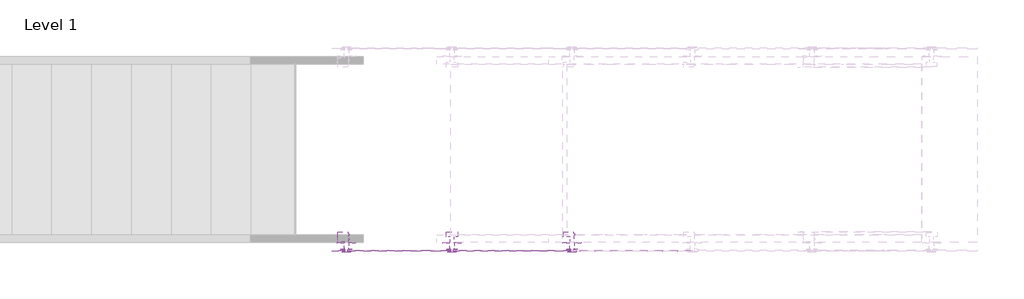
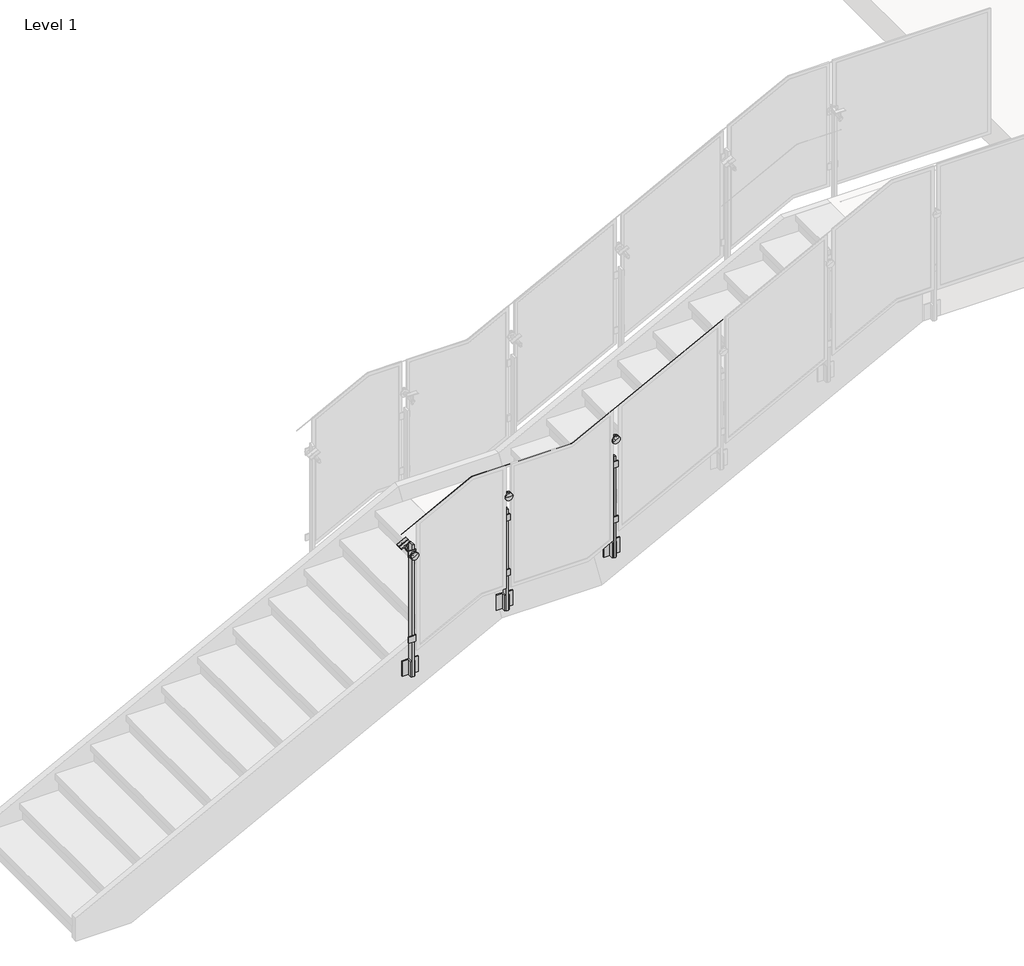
# One storey, part 17 of 28: 1 railing.
"""IFC4 building model written with IfcOpenShell, lengths in millimetres."""

from ifc_helpers import new_model, si_unit, point, frame, frame_2d, origin, place, context, project, spatial, polyline, circle_curve, ellipse_curve, trimmed, segment, composite_curve, outline, extrude, element, save
from ifc_brep_helpers import plane_surface, cylinder_surface, advanced_brep

model = new_model("IFC4")

# Units and contexts
model_context = context("Model", 3, world=origin())
ifc_project = project(units=[si_unit("LENGTHUNIT", "METRE", prefix="MILLI")], contexts=[model_context])

# Site, building, storey
site = spatial("IfcSite", under=ifc_project)
building = spatial("IfcBuilding", under=site)
storey = spatial("IfcBuildingStorey", under=building, Name="Level 1", Elevation=0.0)

# Railing
placement = place(None, origin())
element("IfcRailing", 1, ObjectType="Metal-Panel-VIVA-STRUC-Fascia-Stairs-Landing", at=placement, inside=storey, context=model_context, shape_type="SolidModel", body=[
    advanced_brep(
    [(-16484.3313244, -3972.849746, 2533.6638324), (-16484.3313244, -3971.849746, 2533.6638324), (-15931.7592018, -3972.849746, 2820.7142857), (-15931.7592018, -3971.849746, 2820.7142857), (-15144.3592018, -3972.849746, 2820.7142857), (-15144.3592018, -3971.849746, 2820.7142857), (-13959.1395244, -3972.849746, 3436.4128194), (-13959.1395244, -3971.849746, 3436.4128194)],
    [
        (0, 1, ellipse_curve(frame((-16484.3313244, -3972.349746, 2533.6638324), z_axis=(-1.0, 0.0, 0.0), x_axis=(0.0, 0.0, -1.0)), 0.5634403, 0.5)),
        (1, 0, ellipse_curve(frame((-16484.3313244, -3972.349746, 2533.6638324), z_axis=(-1.0, 0.0, 0.0), x_axis=(0.0, 0.0, -1.0)), 0.5634403, 0.5)),
        (0, 2),
        (2, 3, ellipse_curve(frame((-15931.7592018, -3972.349746, 2820.7142857), z_axis=(-0.9714436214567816, 0.0, -0.23727050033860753), x_axis=(0.23727050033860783, 0.0, -0.9714436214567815)), 0.5146979, 0.5)),
        (3, 1),
        (3, 2, ellipse_curve(frame((-15931.7592018, -3972.349746, 2820.7142857), z_axis=(-0.9714436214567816, 0.0, -0.23727050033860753), x_axis=(0.23727050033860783, 0.0, -0.9714436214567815)), 0.5146979, 0.5)),
        (2, 4),
        (4, 5, ellipse_curve(frame((-15144.3592018, -3972.349746, 2820.7142857), z_axis=(-0.9714436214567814, 0.0, -0.23727050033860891), x_axis=(-0.23727050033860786, 0.0, 0.9714436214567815)), 0.5146979, 0.5)),
        (5, 3),
        (5, 4, ellipse_curve(frame((-15144.3592018, -3972.349746, 2820.7142857), z_axis=(-0.9714436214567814, 0.0, -0.23727050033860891), x_axis=(-0.23727050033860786, 0.0, 0.9714436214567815)), 0.5146979, 0.5)),
        (6, 7, ellipse_curve(frame((-13959.1395244, -3972.349746, 3436.4128194), z_axis=(1.0, 0.0, 0.0), x_axis=(0.0, 0.0, -0.9999999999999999)), 0.5634403, 0.5)),
        (7, 6, ellipse_curve(frame((-13959.1395244, -3972.349746, 3436.4128194), z_axis=(1.0, 0.0, 0.0), x_axis=(0.0, 0.0, -0.9999999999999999)), 0.5634403, 0.5)),
        (4, 6),
        (7, 5),
    ],
    [
        plane_surface(frame((-16484.3313244, -3972.349746, 2534.2272727), z_axis=(-1.0, 0.0, 0.0), x_axis=(0.0, 1.0, 0.0))),
        cylinder_surface(frame((-16484.1008295, -3972.349746, 2533.78357), z_axis=(-0.8874054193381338, 0.0, -0.4609898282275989), x_axis=(0.0, 1.0, 0.0)), 0.5),
        cylinder_surface(frame((-15931.8813244, -3972.349746, 2820.7142857), z_axis=(-1.0, 0.0, 0.0), x_axis=(0.0, 1.0, 0.0)), 0.5),
        plane_surface(frame((-13959.1395244, -3972.349746, 3436.9762597), z_axis=(1.0, 0.0, 0.0), x_axis=(0.0, 1.0, 0.0))),
        cylinder_surface(frame((-15144.2508295, -3972.349746, 2820.770583), z_axis=(-0.8874054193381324, 0.0, -0.4609898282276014), x_axis=(0.0, 1.0, 0.0)), 0.5),
    ],
    [
        (0, [[1, 2]]),
        (1, [[-1, 3, 4, 5]]),
        (1, [[-2, -5, 6, -3]]),
        (2, [[-4, 7, 8, 9]]),
        (2, [[-6, -9, 10, -7]]),
        (3, [[11, 12]]),
        (4, [[-8, 13, -12, 14]]),
        (4, [[-10, -14, -11, -13]]),
    ],
),
    extrude(outline(composite_curve([segment(polyline([(-2.99974, -1e-07), (0.0, 0.0)]), True, "CONTINUOUS"), segment(trimmed(circle_curve(frame_2d((19.0451472, 1e-07)), 19.0451471), [point((0.0, 0.0))], [point((23.6280664, -18.4855208))], True, "CARTESIAN"), True, "CONTINUOUS"), segment(polyline([(23.6280664, -18.4855208), (24.3499073, -21.397116)]), True, "CONTINUOUS"), segment(trimmed(circle_curve(frame_2d((19.0451472, 1e-07)), 22.0448871), [point((24.3499073, -21.397116))], [point((-2.99974, -1e-07))], False, "CARTESIAN"), True, "CONTINUOUS")], self_intersect=False)), frame((-14863.3578349, -3873.586146, 2771.6798072), z_axis=(0.8874054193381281, 0.0, 0.4609898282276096), x_axis=(-0.28405456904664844, 0.7876022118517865, 0.5468050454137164)), (0.0, 0.0, 1.0), 79.1184357),
    advanced_brep(
    [(-14788.4729468, -3858.586146, 2713.3400434), (-14788.4729468, -3851.442396, 2713.3400434), (-14788.4729468, -3865.729896, 2713.3400434), (-14824.3321931, -3865.729896, 2782.3690925), (-14824.3321931, -3851.442396, 2782.3690925), (-14824.3321931, -3858.586146, 2782.3690925)],
    [
        (0, 1),
        (1, 2, circle_curve(frame((-14788.4729468, -3858.586146, 2713.3400434), z_axis=(0.4609898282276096, 0.0, -0.8874054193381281), x_axis=(0.0, 1.0, 0.0)), 7.14375)),
        (2, 0),
        (3, 4, circle_curve(frame((-14824.3321931, -3858.586146, 2782.3690925), z_axis=(-0.4609898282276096, 0.0, 0.8874054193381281), x_axis=(0.0, 1.0, 0.0)), 7.14375)),
        (4, 5),
        (5, 3),
        (2, 1, circle_curve(frame((-14788.4729468, -3858.586146, 2713.3400434), z_axis=(0.4609898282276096, 0.0, -0.8874054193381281), x_axis=(0.0, 1.0, 0.0)), 7.14375)),
        (4, 3, circle_curve(frame((-14824.3321931, -3858.586146, 2782.3690925), z_axis=(-0.4609898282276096, 0.0, 0.8874054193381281), x_axis=(0.0, 1.0, 0.0)), 7.14375)),
        (1, 4),
        (3, 2),
    ],
    [
        plane_surface(frame((-14788.4729468, -3858.586146, 2713.3400434), z_axis=(0.4609898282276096, 0.0, -0.8874054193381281), x_axis=(0.0, 1.0, 0.0))),
        plane_surface(frame((-14824.3321931, -3858.586146, 2782.3690925), z_axis=(-0.4609898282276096, 0.0, 0.8874054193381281), x_axis=(0.0, 1.0, 0.0))),
        cylinder_surface(frame((-14671.5187469, -3858.586146, 2488.2032087), z_axis=(0.4609898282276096, 0.0, -0.8874054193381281), x_axis=(0.0, 1.0, 0.0)), 7.14375),
    ],
    [
        (0, [[1, 2, 3]]),
        (1, [[4, 5, 6]]),
        (0, [[-3, 7, -1]]),
        (1, [[8, -6, -5]]),
        (2, [[-2, 9, -4, 10]]),
        (2, [[-7, -10, -8, -9]]),
    ],
),
    advanced_brep(
    [(-14774.1037585, -3977.331146, 2751.1092161), (-14827.6364904, -3977.331146, 2723.3000047), (-14806.5051488, -3977.331146, 2734.277325), (-14795.2351, -3977.331146, 2740.1318958), (-14774.1037585, -3985.268646, 2751.1092161), (-14827.6364904, -3985.268646, 2723.3000047), (-14774.1037585, -3959.868646, 2751.1092161), (-14827.6364904, -3959.868646, 2723.3000047), (-14812.1401733, -3959.868646, 2731.3500396), (-14789.6000756, -3959.868646, 2743.0591812), (-14774.1037585, -3967.806146, 2751.1092161), (-14827.6364904, -3967.806146, 2723.3000047), (-14800.8701244, -3985.268646, 2737.2046104), (-14789.6000756, -3847.8674022, 2743.0591812), (-14812.1401733, -3847.8674022, 2731.3500396), (-14800.8701244, -3847.8674022, 2737.2046104), (-14795.2351, -3967.806146, 2740.1318958), (-14806.5051488, -3967.806146, 2734.277325)],
    [
        (0, 1, circle_curve(frame((-14800.8701244, -3977.331146, 2737.2046104), z_axis=(0.0, 1.0, 0.0), x_axis=(-0.8874054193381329, 0.0, -0.4609898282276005)), 30.1625)),
        (1, 2),
        (2, 3, circle_curve(frame((-14800.8701244, -3977.331146, 2737.2046104), z_axis=(0.0, -1.0, 0.0), x_axis=(-0.8874054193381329, 0.0, -0.4609898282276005)), 6.35)),
        (3, 0),
        (4, 5, circle_curve(frame((-14800.8701244, -3985.268646, 2737.2046104), z_axis=(0.0, 1.0, 0.0), x_axis=(-0.8874054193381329, 0.0, -0.4609898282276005)), 30.1625)),
        (5, 1),
        (0, 4),
        (6, 7, circle_curve(frame((-14800.8701244, -3959.868646, 2737.2046104), z_axis=(0.0, 1.0, 0.0), x_axis=(-0.8874054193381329, 0.0, -0.4609898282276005)), 30.1625)),
        (7, 8),
        (8, 9, circle_curve(frame((-14800.8701244, -3959.868646, 2737.2046104), z_axis=(0.0, -1.0, 0.0), x_axis=(-0.8874054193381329, 0.0, -0.4609898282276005)), 12.7)),
        (9, 6),
        (10, 11, circle_curve(frame((-14800.8701244, -3967.806146, 2737.2046104), z_axis=(0.0, 1.0, 0.0), x_axis=(-0.8874054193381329, 0.0, -0.4609898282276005)), 30.1625)),
        (11, 7),
        (6, 10),
        (5, 4, circle_curve(frame((-14800.8701244, -3985.268646, 2737.2046104), z_axis=(0.0, 1.0, 0.0), x_axis=(-0.8874054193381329, 0.0, -0.4609898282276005)), 30.1625)),
        (0, 1, circle_curve(frame((-14800.8701244, -3977.331146, 2737.2046104), z_axis=(0.0, -1.0, 0.0), x_axis=(-0.8874054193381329, 0.0, -0.4609898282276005)), 30.1625)),
        (12, 5),
        (4, 12),
        (13, 14, circle_curve(frame((-14800.8701244, -3847.8674022, 2737.2046104), z_axis=(0.0, 1.0, 0.0), x_axis=(-0.8874054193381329, 0.0, -0.4609898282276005)), 12.7)),
        (14, 15),
        (15, 13),
        (14, 13, circle_curve(frame((-14800.8701244, -3847.8674022, 2737.2046104), z_axis=(0.0, 1.0, 0.0), x_axis=(-0.8874054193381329, 0.0, -0.4609898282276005)), 12.7)),
        (8, 14),
        (13, 9),
        (8, 9, circle_curve(frame((-14800.8701244, -3959.868646, 2737.2046104), z_axis=(0.0, 1.0, 0.0), x_axis=(-0.8874054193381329, 0.0, -0.4609898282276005)), 12.7)),
        (7, 6, circle_curve(frame((-14800.8701244, -3959.868646, 2737.2046104), z_axis=(0.0, 1.0, 0.0), x_axis=(-0.8874054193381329, 0.0, -0.4609898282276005)), 30.1625)),
        (11, 10, circle_curve(frame((-14800.8701244, -3967.806146, 2737.2046104), z_axis=(0.0, 1.0, 0.0), x_axis=(-0.8874054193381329, 0.0, -0.4609898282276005)), 30.1625)),
        (16, 17, circle_curve(frame((-14800.8701244, -3967.806146, 2737.2046104), z_axis=(0.0, 1.0, 0.0), x_axis=(-0.8874054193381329, 0.0, -0.4609898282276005)), 6.35)),
        (17, 11),
        (10, 16),
        (17, 16, circle_curve(frame((-14800.8701244, -3967.806146, 2737.2046104), z_axis=(0.0, 1.0, 0.0), x_axis=(-0.8874054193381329, 0.0, -0.4609898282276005)), 6.35)),
        (2, 17),
        (16, 3),
        (2, 3, circle_curve(frame((-14800.8701244, -3977.331146, 2737.2046104), z_axis=(0.0, 1.0, 0.0), x_axis=(-0.8874054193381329, 0.0, -0.4609898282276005)), 6.35)),
    ],
    [
        plane_surface(frame((-14800.8701244, -3977.331146, 2737.2046104), z_axis=(0.0, 1.0, 0.0), x_axis=(-0.8874054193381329, 0.0, -0.4609898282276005))),
        cylinder_surface(frame((-14800.8701244, -5491.806146, 2737.2046104), z_axis=(0.0, -1.0, 0.0), x_axis=(-0.8874054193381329, 0.0, -0.4609898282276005)), 30.1625),
        plane_surface(frame((-14800.8701244, -3959.868646, 2737.2046104), z_axis=(0.0, 1.0, 0.0), x_axis=(-0.8874054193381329, 0.0, -0.4609898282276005))),
        plane_surface(frame((-14800.8701244, -3985.268646, 2737.2046104), z_axis=(0.0, -1.0, 0.0), x_axis=(-0.8874054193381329, 0.0, -0.4609898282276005))),
        plane_surface(frame((-14800.8701244, -3847.8674022, 2737.2046104), z_axis=(0.0, 1.0, 0.0), x_axis=(-0.8874054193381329, 0.0, -0.4609898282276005))),
        cylinder_surface(frame((-14800.8701244, -5491.806146, 2737.2046104), z_axis=(0.0, -1.0, 0.0), x_axis=(-0.8874054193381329, 0.0, -0.4609898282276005)), 12.7),
        plane_surface(frame((-14800.8701244, -3967.806146, 2737.2046104), z_axis=(0.0, -1.0, 0.0), x_axis=(-0.8874054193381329, 0.0, -0.4609898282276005))),
        cylinder_surface(frame((-14800.8701244, -5491.806146, 2737.2046104), z_axis=(0.0, -1.0, 0.0), x_axis=(-0.8874054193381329, 0.0, -0.4609898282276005)), 6.35),
    ],
    [
        (0, [[1, 2, 3, 4]]),
        (1, [[5, 6, -1, 7]]),
        (2, [[8, 9, 10, 11]]),
        (1, [[12, 13, -8, 14]]),
        (1, [[15, -7, 16, -6]]),
        (3, [[17, -5, 18]]),
        (3, [[-18, -15, -17]]),
        (4, [[19, 20, 21]]),
        (4, [[22, -21, -20]]),
        (5, [[-10, 23, -19, 24]]),
        (5, [[25, -24, -22, -23]]),
        (2, [[26, -11, -25, -9]]),
        (1, [[27, -14, -26, -13]]),
        (6, [[28, 29, -12, 30]]),
        (6, [[31, -30, -27, -29]]),
        (7, [[-3, 32, -28, 33]]),
        (7, [[34, -33, -31, -32]]),
        (0, [[-16, -4, -34, -2]]),
    ],
),
    extrude(outline(polyline([(-14838.9708437, -3960.694146), (-14762.7694052, -3960.694146), (-14762.7694052, -3967.806146), (-14838.9708437, -3967.806146), (-14838.9708437, -3960.694146)])), frame((0.0, 0.0, 2495.8221429), z_axis=(0.0, 0.0, 1.0), x_axis=(1.0, 0.0, 0.0)), (0.0, 0.0, 1.0), 50.8),
    extrude(outline(polyline([(-14838.9708437, -3960.694146), (-14762.7694052, -3960.694146), (-14762.7694052, -3967.806146), (-14838.9708437, -3967.806146), (-14838.9708437, -3960.694146)])), frame((0.0, 0.0, 2038.6221429), z_axis=(0.0, 0.0, 1.0), x_axis=(1.0, 0.0, 0.0)), (0.0, 0.0, 1.0), 50.8),
    extrude(outline(polyline([(-14792.9347161, -3954.852146), (-14792.9347161, -3912.942146), (-14737.3741945, -3912.942146), (-14737.3741945, -3921.070146), (-14784.9337161, -3921.070146), (-14784.9337161, -3954.852146), (-14792.9347161, -3954.852146)])), frame((0.0, 0.0, 1743.2709429), z_axis=(0.0, 0.0, 1.0), x_axis=(1.0, 0.0, 0.0)), (0.0, 0.0, 1.0), 127.0),
    extrude(outline(polyline([(-14808.8097161, -3954.852146), (-14816.8107161, -3954.852146), (-14816.8107161, -3921.070146), (-14864.3702376, -3921.070146), (-14864.3702376, -3912.942146), (-14808.8097161, -3912.942146), (-14808.8097161, -3954.852146)])), frame((0.0, 0.0, 1743.2709429), z_axis=(0.0, 0.0, 1.0), x_axis=(1.0, 0.0, 0.0)), (0.0, 0.0, 1.0), 127.0),
    extrude(outline(polyline([(-14808.8097161, -3916.244146), (-14792.9305328, -3916.244146), (-14792.9305328, -3960.694146), (-14808.8097161, -3960.694146), (-14808.8097161, -3916.244146)])), frame((0.0, 0.0, 1743.2709429), z_axis=(0.0, 0.0, 1.0), x_axis=(1.0, 0.0, 0.0)), (0.0, 0.0, 1.0), 842.9752),
    extrude(outline(composite_curve([segment(polyline([(-3875.9487478, 2616.2565693), (-3873.586146, 2618.1049611)]), True, "CONTINUOUS"), segment(trimmed(circle_curve(frame_2d((-3858.586146, 2629.8402766)), 19.0451471), [point((-3873.586146, 2618.1049611))], [point((-3843.586146, 2618.1049611))], True, "CARTESIAN"), True, "CONTINUOUS"), segment(polyline([(-3843.586146, 2618.1049611), (-3841.2235441, 2616.2565693)]), True, "CONTINUOUS"), segment(trimmed(circle_curve(frame_2d((-3858.586146, 2629.8402766)), 22.0448871), [point((-3841.2235441, 2616.2565693))], [point((-3875.9487478, 2616.2565693))], False, "CARTESIAN"), True, "CONTINUOUS")], self_intersect=False)), frame((-15682.1599423, 0.0, 0.0), z_axis=(1.0, 0.0, 0.0), x_axis=(0.0, 1.0, 0.0)), (0.0, 0.0, 1.0), 79.1184357),
    advanced_brep(
    [(-15642.6007244, -3858.586146, 2531.8127669), (-15642.6007244, -3851.442396, 2531.8127669), (-15642.6007244, -3865.729896, 2531.8127669), (-15642.6007244, -3865.729896, 2609.6002669), (-15642.6007244, -3851.442396, 2609.6002669), (-15642.6007244, -3858.586146, 2609.6002669)],
    [
        (0, 1),
        (1, 2, circle_curve(frame((-15642.6007244, -3858.586146, 2531.8127669), z_axis=(0.0, 0.0, -1.0), x_axis=(0.0, 1.0, 0.0)), 7.14375)),
        (2, 0),
        (3, 4, circle_curve(frame((-15642.6007244, -3858.586146, 2609.6002669), z_axis=(0.0, 0.0, 1.0), x_axis=(0.0, 1.0, 0.0)), 7.14375)),
        (4, 5),
        (5, 3),
        (2, 1, circle_curve(frame((-15642.6007244, -3858.586146, 2531.8127669), z_axis=(0.0, 0.0, -1.0), x_axis=(0.0, 1.0, 0.0)), 7.14375)),
        (4, 3, circle_curve(frame((-15642.6007244, -3858.586146, 2609.6002669), z_axis=(0.0, 0.0, 1.0), x_axis=(0.0, 1.0, 0.0)), 7.14375)),
        (1, 4),
        (3, 2),
    ],
    [
        plane_surface(frame((-15642.6007244, -3858.586146, 2531.8127669), z_axis=(0.0, 0.0, -1.0), x_axis=(0.0, 1.0, 0.0))),
        plane_surface(frame((-15642.6007244, -3858.586146, 2609.6002669), z_axis=(0.0, 0.0, 1.0), x_axis=(0.0, 1.0, 0.0))),
        cylinder_surface(frame((-15642.6007244, -3858.586146, 2278.1104231), z_axis=(0.0, 0.0, -1.0), x_axis=(0.0, 1.0, 0.0)), 7.14375),
    ],
    [
        (0, [[1, 2, 3]]),
        (1, [[4, 5, 6]]),
        (0, [[-3, 7, -1]]),
        (1, [[8, -6, -5]]),
        (2, [[-2, 9, -4, 10]]),
        (2, [[-7, -10, -8, -9]]),
    ],
),
    advanced_brep(
    [(-15612.4382244, -3977.331146, 2558.7052857), (-15672.7632244, -3977.331146, 2558.7052857), (-15648.9507244, -3977.331146, 2558.7052857), (-15636.2507244, -3977.331146, 2558.7052857), (-15612.4382244, -3985.268646, 2558.7052857), (-15672.7632244, -3985.268646, 2558.7052857), (-15612.4382244, -3959.868646, 2558.7052857), (-15672.7632244, -3959.868646, 2558.7052857), (-15655.3007244, -3959.868646, 2558.7052857), (-15629.9007244, -3959.868646, 2558.7052857), (-15612.4382244, -3967.806146, 2558.7052857), (-15672.7632244, -3967.806146, 2558.7052857), (-15642.6007244, -3985.268646, 2558.7052857), (-15629.9007244, -3847.8674022, 2558.7052857), (-15655.3007244, -3847.8674022, 2558.7052857), (-15642.6007244, -3847.8674022, 2558.7052857), (-15636.2507244, -3967.806146, 2558.7052857), (-15648.9507244, -3967.806146, 2558.7052857)],
    [
        (0, 1, circle_curve(frame((-15642.6007244, -3977.331146, 2558.7052857), z_axis=(0.0, 1.0, 0.0), x_axis=(-1.0, 0.0, 0.0)), 30.1625)),
        (1, 2),
        (2, 3, circle_curve(frame((-15642.6007244, -3977.331146, 2558.7052857), z_axis=(0.0, -1.0, 0.0), x_axis=(-1.0, 0.0, 0.0)), 6.35)),
        (3, 0),
        (4, 5, circle_curve(frame((-15642.6007244, -3985.268646, 2558.7052857), z_axis=(0.0, 1.0, 0.0), x_axis=(-1.0, 0.0, 0.0)), 30.1625)),
        (5, 1),
        (0, 4),
        (6, 7, circle_curve(frame((-15642.6007244, -3959.868646, 2558.7052857), z_axis=(0.0, 1.0, 0.0), x_axis=(-1.0, 0.0, 0.0)), 30.1625)),
        (7, 8),
        (8, 9, circle_curve(frame((-15642.6007244, -3959.868646, 2558.7052857), z_axis=(0.0, -1.0, 0.0), x_axis=(-1.0, 0.0, 0.0)), 12.7)),
        (9, 6),
        (10, 11, circle_curve(frame((-15642.6007244, -3967.806146, 2558.7052857), z_axis=(0.0, 1.0, 0.0), x_axis=(-1.0, 0.0, 0.0)), 30.1625)),
        (11, 7),
        (6, 10),
        (5, 4, circle_curve(frame((-15642.6007244, -3985.268646, 2558.7052857), z_axis=(0.0, 1.0, 0.0), x_axis=(-1.0, 0.0, 0.0)), 30.1625)),
        (0, 1, circle_curve(frame((-15642.6007244, -3977.331146, 2558.7052857), z_axis=(0.0, -1.0, 0.0), x_axis=(-1.0, 0.0, 0.0)), 30.1625)),
        (12, 5),
        (4, 12),
        (13, 14, circle_curve(frame((-15642.6007244, -3847.8674022, 2558.7052857), z_axis=(0.0, 1.0, 0.0), x_axis=(-1.0, 0.0, 0.0)), 12.7)),
        (14, 15),
        (15, 13),
        (14, 13, circle_curve(frame((-15642.6007244, -3847.8674022, 2558.7052857), z_axis=(0.0, 1.0, 0.0), x_axis=(-1.0, 0.0, 0.0)), 12.7)),
        (8, 14),
        (13, 9),
        (8, 9, circle_curve(frame((-15642.6007244, -3959.868646, 2558.7052857), z_axis=(0.0, 1.0, 0.0), x_axis=(-1.0, 0.0, 0.0)), 12.7)),
        (7, 6, circle_curve(frame((-15642.6007244, -3959.868646, 2558.7052857), z_axis=(0.0, 1.0, 0.0), x_axis=(-1.0, 0.0, 0.0)), 30.1625)),
        (11, 10, circle_curve(frame((-15642.6007244, -3967.806146, 2558.7052857), z_axis=(0.0, 1.0, 0.0), x_axis=(-1.0, 0.0, 0.0)), 30.1625)),
        (16, 17, circle_curve(frame((-15642.6007244, -3967.806146, 2558.7052857), z_axis=(0.0, 1.0, 0.0), x_axis=(-1.0, 0.0, 0.0)), 6.35)),
        (17, 11),
        (10, 16),
        (17, 16, circle_curve(frame((-15642.6007244, -3967.806146, 2558.7052857), z_axis=(0.0, 1.0, 0.0), x_axis=(-1.0, 0.0, 0.0)), 6.35)),
        (2, 17),
        (16, 3),
        (2, 3, circle_curve(frame((-15642.6007244, -3977.331146, 2558.7052857), z_axis=(0.0, 1.0, 0.0), x_axis=(-1.0, 0.0, 0.0)), 6.35)),
    ],
    [
        plane_surface(frame((-15642.6007244, -3977.331146, 2558.7052857), z_axis=(0.0, 1.0, 0.0), x_axis=(-1.0, 0.0, 0.0))),
        cylinder_surface(frame((-15642.6007244, -5491.806146, 2558.7052857), z_axis=(0.0, -1.0, 0.0), x_axis=(-1.0, 0.0, 0.0)), 30.1625),
        plane_surface(frame((-15642.6007244, -3959.868646, 2558.7052857), z_axis=(0.0, 1.0, 0.0), x_axis=(-1.0, 0.0, 0.0))),
        plane_surface(frame((-15642.6007244, -3985.268646, 2558.7052857), z_axis=(0.0, -1.0, 0.0), x_axis=(-1.0, 0.0, 0.0))),
        plane_surface(frame((-15642.6007244, -3847.8674022, 2558.7052857), z_axis=(0.0, 1.0, 0.0), x_axis=(-1.0, 0.0, 0.0))),
        cylinder_surface(frame((-15642.6007244, -5491.806146, 2558.7052857), z_axis=(0.0, -1.0, 0.0), x_axis=(-1.0, 0.0, 0.0)), 12.7),
        plane_surface(frame((-15642.6007244, -3967.806146, 2558.7052857), z_axis=(0.0, -1.0, 0.0), x_axis=(-1.0, 0.0, 0.0))),
        cylinder_surface(frame((-15642.6007244, -5491.806146, 2558.7052857), z_axis=(0.0, -1.0, 0.0), x_axis=(-1.0, 0.0, 0.0)), 6.35),
    ],
    [
        (0, [[1, 2, 3, 4]]),
        (1, [[5, 6, -1, 7]]),
        (2, [[8, 9, 10, 11]]),
        (1, [[12, 13, -8, 14]]),
        (1, [[15, -7, 16, -6]]),
        (3, [[17, -5, 18]]),
        (3, [[-18, -15, -17]]),
        (4, [[19, 20, 21]]),
        (4, [[22, -21, -20]]),
        (5, [[-10, 23, -19, 24]]),
        (5, [[25, -24, -22, -23]]),
        (2, [[26, -11, -25, -9]]),
        (1, [[27, -14, -26, -13]]),
        (6, [[28, 29, -12, 30]]),
        (6, [[31, -30, -27, -29]]),
        (7, [[-3, 32, -28, 33]]),
        (7, [[34, -33, -31, -32]]),
        (0, [[-16, -4, -34, -2]]),
    ],
),
    extrude(outline(polyline([(-15680.7014437, -3960.694146), (-15604.5000052, -3960.694146), (-15604.5000052, -3967.806146), (-15680.7014437, -3967.806146), (-15680.7014437, -3960.694146)])), frame((0.0, 0.0, 2350.6792857), z_axis=(0.0, 0.0, 1.0), x_axis=(1.0, 0.0, 0.0)), (0.0, 0.0, 1.0), 50.8),
    extrude(outline(polyline([(-15680.7014437, -3960.694146), (-15604.5000052, -3960.694146), (-15604.5000052, -3967.806146), (-15680.7014437, -3967.806146), (-15680.7014437, -3960.694146)])), frame((0.0, 0.0, 1893.4792857), z_axis=(0.0, 0.0, 1.0), x_axis=(1.0, 0.0, 0.0)), (0.0, 0.0, 1.0), 50.8),
    extrude(outline(polyline([(-15634.6653161, -3954.852146), (-15634.6653161, -3912.942146), (-15579.1047945, -3912.942146), (-15579.1047945, -3921.070146), (-15626.6643161, -3921.070146), (-15626.6643161, -3954.852146), (-15634.6653161, -3954.852146)])), frame((0.0, 0.0, 1598.1280857), z_axis=(0.0, 0.0, 1.0), x_axis=(1.0, 0.0, 0.0)), (0.0, 0.0, 1.0), 127.0),
    extrude(outline(polyline([(-15650.5403161, -3954.852146), (-15658.5413161, -3954.852146), (-15658.5413161, -3921.070146), (-15706.1008376, -3921.070146), (-15706.1008376, -3912.942146), (-15650.5403161, -3912.942146), (-15650.5403161, -3954.852146)])), frame((0.0, 0.0, 1598.1280857), z_axis=(0.0, 0.0, 1.0), x_axis=(1.0, 0.0, 0.0)), (0.0, 0.0, 1.0), 127.0),
    extrude(outline(polyline([(-15650.5403161, -3916.244146), (-15634.6611328, -3916.244146), (-15634.6611328, -3960.694146), (-15650.5403161, -3960.694146), (-15650.5403161, -3916.244146)])), frame((0.0, 0.0, 1598.1280857), z_axis=(0.0, 0.0, 1.0), x_axis=(1.0, 0.0, 0.0)), (0.0, 0.0, 1.0), 842.9752),
    extrude(outline(composite_curve([segment(polyline([(-2.9997399, 0.0), (0.0, 0.0)]), True, "CONTINUOUS"), segment(trimmed(circle_curve(frame_2d((19.0451472, 1e-07)), 19.0451471), [point((0.0, 0.0))], [point((23.6280664, -18.4855208))], True, "CARTESIAN"), True, "CONTINUOUS"), segment(polyline([(23.6280664, -18.4855208), (24.3499073, -21.3971159)]), True, "CONTINUOUS"), segment(trimmed(circle_curve(frame_2d((19.0451472, 1e-07)), 22.0448871), [point((24.3499073, -21.3971159))], [point((-2.9997399, 0.0))], False, "CARTESIAN"), True, "CONTINUOUS")], self_intersect=False)), frame((-16445.2190349, -3873.586146, 2358.9726903), z_axis=(0.8874054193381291, 0.0, 0.46098982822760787), x_axis=(-0.28405456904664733, 0.7876022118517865, 0.546805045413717)), (0.0, 0.0, 1.0), 79.1184357),
    advanced_brep(
    [(-16370.3341468, -3858.586146, 2300.6329266), (-16370.3341468, -3851.442396, 2300.6329266), (-16370.3341468, -3865.729896, 2300.6329266), (-16406.1933931, -3865.729896, 2369.6619756), (-16406.1933931, -3851.442396, 2369.6619756), (-16406.1933931, -3858.586146, 2369.6619756)],
    [
        (0, 1),
        (1, 2, circle_curve(frame((-16370.3341468, -3858.586146, 2300.6329266), z_axis=(0.4609898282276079, 0.0, -0.8874054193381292), x_axis=(0.0, 1.0, 0.0)), 7.14375)),
        (2, 0),
        (3, 4, circle_curve(frame((-16406.1933931, -3858.586146, 2369.6619756), z_axis=(-0.4609898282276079, 0.0, 0.8874054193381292), x_axis=(0.0, 1.0, 0.0)), 7.14375)),
        (4, 5),
        (5, 3),
        (2, 1, circle_curve(frame((-16370.3341468, -3858.586146, 2300.6329266), z_axis=(0.4609898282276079, 0.0, -0.8874054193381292), x_axis=(0.0, 1.0, 0.0)), 7.14375)),
        (4, 3, circle_curve(frame((-16406.1933931, -3858.586146, 2369.6619756), z_axis=(-0.4609898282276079, 0.0, 0.8874054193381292), x_axis=(0.0, 1.0, 0.0)), 7.14375)),
        (1, 4),
        (3, 2),
    ],
    [
        plane_surface(frame((-16370.3341468, -3858.586146, 2300.6329266), z_axis=(0.46098982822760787, 0.0, -0.8874054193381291), x_axis=(0.0, 1.0, 0.0))),
        plane_surface(frame((-16406.1933931, -3858.586146, 2369.6619756), z_axis=(-0.46098982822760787, 0.0, 0.8874054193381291), x_axis=(0.0, 1.0, 0.0))),
        cylinder_surface(frame((-16253.3799469, -3858.586146, 2075.4960918), z_axis=(0.4609898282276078, 0.0, -0.887405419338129), x_axis=(0.0, 1.0, 0.0)), 7.14375),
    ],
    [
        (0, [[1, 2, 3]]),
        (1, [[4, 5, 6]]),
        (0, [[-3, 7, -1]]),
        (1, [[8, -6, -5]]),
        (2, [[-2, 9, -4, 10]]),
        (2, [[-7, -10, -8, -9]]),
    ],
),
    advanced_brep(
    [(-16355.9649585, -3977.331146, 2338.4020992), (-16409.4976904, -3977.331146, 2310.5928878), (-16388.3663488, -3977.331146, 2321.5702081), (-16377.0963, -3977.331146, 2327.4247789), (-16355.9649585, -3985.268646, 2338.4020992), (-16409.4976904, -3985.268646, 2310.5928878), (-16355.9649585, -3959.868646, 2338.4020992), (-16409.4976904, -3959.868646, 2310.5928878), (-16394.0013733, -3959.868646, 2318.6429227), (-16371.4612756, -3959.868646, 2330.3520643), (-16355.9649585, -3967.806146, 2338.4020992), (-16409.4976904, -3967.806146, 2310.5928878), (-16382.7313244, -3985.268646, 2324.4974935), (-16371.4612756, -3847.8674022, 2330.3520643), (-16394.0013733, -3847.8674022, 2318.6429227), (-16382.7313244, -3847.8674022, 2324.4974935), (-16377.0963, -3967.806146, 2327.4247789), (-16388.3663488, -3967.806146, 2321.5702081)],
    [
        (0, 1, circle_curve(frame((-16382.7313244, -3977.331146, 2324.4974935), z_axis=(0.0, 1.0, 0.0), x_axis=(-0.8874054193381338, 0.0, -0.4609898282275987)), 30.1625)),
        (1, 2),
        (2, 3, circle_curve(frame((-16382.7313244, -3977.331146, 2324.4974935), z_axis=(0.0, -1.0, 0.0), x_axis=(-0.8874054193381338, 0.0, -0.4609898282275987)), 6.35)),
        (3, 0),
        (4, 5, circle_curve(frame((-16382.7313244, -3985.268646, 2324.4974935), z_axis=(0.0, 1.0, 0.0), x_axis=(-0.8874054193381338, 0.0, -0.4609898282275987)), 30.1625)),
        (5, 1),
        (0, 4),
        (6, 7, circle_curve(frame((-16382.7313244, -3959.868646, 2324.4974935), z_axis=(0.0, 1.0, 0.0), x_axis=(-0.8874054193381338, 0.0, -0.4609898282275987)), 30.1625)),
        (7, 8),
        (8, 9, circle_curve(frame((-16382.7313244, -3959.868646, 2324.4974935), z_axis=(0.0, -1.0, 0.0), x_axis=(-0.8874054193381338, 0.0, -0.4609898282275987)), 12.7)),
        (9, 6),
        (10, 11, circle_curve(frame((-16382.7313244, -3967.806146, 2324.4974935), z_axis=(0.0, 1.0, 0.0), x_axis=(-0.8874054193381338, 0.0, -0.4609898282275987)), 30.1625)),
        (11, 7),
        (6, 10),
        (5, 4, circle_curve(frame((-16382.7313244, -3985.268646, 2324.4974935), z_axis=(0.0, 1.0, 0.0), x_axis=(-0.8874054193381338, 0.0, -0.4609898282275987)), 30.1625)),
        (0, 1, circle_curve(frame((-16382.7313244, -3977.331146, 2324.4974935), z_axis=(0.0, -1.0, 0.0), x_axis=(-0.8874054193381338, 0.0, -0.4609898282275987)), 30.1625)),
        (12, 5),
        (4, 12),
        (13, 14, circle_curve(frame((-16382.7313244, -3847.8674022, 2324.4974935), z_axis=(0.0, 1.0, 0.0), x_axis=(-0.8874054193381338, 0.0, -0.4609898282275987)), 12.7)),
        (14, 15),
        (15, 13),
        (14, 13, circle_curve(frame((-16382.7313244, -3847.8674022, 2324.4974935), z_axis=(0.0, 1.0, 0.0), x_axis=(-0.8874054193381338, 0.0, -0.4609898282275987)), 12.7)),
        (8, 14),
        (13, 9),
        (8, 9, circle_curve(frame((-16382.7313244, -3959.868646, 2324.4974935), z_axis=(0.0, 1.0, 0.0), x_axis=(-0.8874054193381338, 0.0, -0.4609898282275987)), 12.7)),
        (7, 6, circle_curve(frame((-16382.7313244, -3959.868646, 2324.4974935), z_axis=(0.0, 1.0, 0.0), x_axis=(-0.8874054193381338, 0.0, -0.4609898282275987)), 30.1625)),
        (11, 10, circle_curve(frame((-16382.7313244, -3967.806146, 2324.4974935), z_axis=(0.0, 1.0, 0.0), x_axis=(-0.8874054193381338, 0.0, -0.4609898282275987)), 30.1625)),
        (16, 17, circle_curve(frame((-16382.7313244, -3967.806146, 2324.4974935), z_axis=(0.0, 1.0, 0.0), x_axis=(-0.8874054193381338, 0.0, -0.4609898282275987)), 6.35)),
        (17, 11),
        (10, 16),
        (17, 16, circle_curve(frame((-16382.7313244, -3967.806146, 2324.4974935), z_axis=(0.0, 1.0, 0.0), x_axis=(-0.8874054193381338, 0.0, -0.4609898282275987)), 6.35)),
        (2, 17),
        (16, 3),
        (2, 3, circle_curve(frame((-16382.7313244, -3977.331146, 2324.4974935), z_axis=(0.0, 1.0, 0.0), x_axis=(-0.8874054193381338, 0.0, -0.4609898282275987)), 6.35)),
    ],
    [
        plane_surface(frame((-16382.7313244, -3977.331146, 2324.4974935), z_axis=(0.0, 1.0, 0.0), x_axis=(-0.8874054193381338, 0.0, -0.4609898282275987))),
        cylinder_surface(frame((-16382.7313244, -5491.806146, 2324.4974935), z_axis=(0.0, -1.0, 0.0), x_axis=(-0.8874054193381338, 0.0, -0.4609898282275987)), 30.1625),
        plane_surface(frame((-16382.7313244, -3959.868646, 2324.4974935), z_axis=(0.0, 1.0, 0.0), x_axis=(-0.8874054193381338, 0.0, -0.4609898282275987))),
        plane_surface(frame((-16382.7313244, -3985.268646, 2324.4974935), z_axis=(0.0, -1.0, 0.0), x_axis=(-0.8874054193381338, 0.0, -0.4609898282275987))),
        plane_surface(frame((-16382.7313244, -3847.8674022, 2324.4974935), z_axis=(0.0, 1.0, 0.0), x_axis=(-0.8874054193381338, 0.0, -0.4609898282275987))),
        cylinder_surface(frame((-16382.7313244, -5491.806146, 2324.4974935), z_axis=(0.0, -1.0, 0.0), x_axis=(-0.8874054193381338, 0.0, -0.4609898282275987)), 12.7),
        plane_surface(frame((-16382.7313244, -3967.806146, 2324.4974935), z_axis=(0.0, -1.0, 0.0), x_axis=(-0.8874054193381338, 0.0, -0.4609898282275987))),
        cylinder_surface(frame((-16382.7313244, -5491.806146, 2324.4974935), z_axis=(0.0, -1.0, 0.0), x_axis=(-0.8874054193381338, 0.0, -0.4609898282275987)), 6.35),
    ],
    [
        (0, [[1, 2, 3, 4]]),
        (1, [[5, 6, -1, 7]]),
        (2, [[8, 9, 10, 11]]),
        (1, [[12, 13, -8, 14]]),
        (1, [[15, -7, 16, -6]]),
        (3, [[17, -5, 18]]),
        (3, [[-18, -15, -17]]),
        (4, [[19, 20, 21]]),
        (4, [[22, -21, -20]]),
        (5, [[-10, 23, -19, 24]]),
        (5, [[25, -24, -22, -23]]),
        (2, [[26, -11, -25, -9]]),
        (1, [[27, -14, -26, -13]]),
        (6, [[28, 29, -12, 30]]),
        (6, [[31, -30, -27, -29]]),
        (7, [[-3, 32, -28, 33]]),
        (7, [[34, -33, -31, -32]]),
        (0, [[-16, -4, -34, -2]]),
    ],
),
    extrude(outline(polyline([(-16420.8320437, -3960.694146), (-16344.6306052, -3960.694146), (-16344.6306052, -3967.806146), (-16420.8320437, -3967.806146), (-16420.8320437, -3960.694146)])), frame((0.0, 0.0, 2314.3935714), z_axis=(0.0, 0.0, 1.0), x_axis=(1.0, 0.0, 0.0)), (0.0, 0.0, 1.0), 50.8),
    extrude(outline(polyline([(-16420.8320437, -3960.694146), (-16344.6306052, -3960.694146), (-16344.6306052, -3967.806146), (-16420.8320437, -3967.806146), (-16420.8320437, -3960.694146)])), frame((0.0, 0.0, 1603.1935714), z_axis=(0.0, 0.0, 1.0), x_axis=(1.0, 0.0, 0.0)), (0.0, 0.0, 1.0), 50.8),
    extrude(outline(composite_curve([segment(polyline([(2.9997399, 0.0), (0.0, 0.0)]), True, "CONTINUOUS"), segment(trimmed(circle_curve(frame_2d((-19.0451472, -1e-07)), 19.0451471), [point((0.0, 0.0))], [point((-23.6280664, 18.4855208))], True, "CARTESIAN"), True, "CONTINUOUS"), segment(polyline([(-23.6280664, 18.4855208), (-24.3499073, 21.3971159)]), True, "CONTINUOUS"), segment(trimmed(circle_curve(frame_2d((-19.0451472, -1e-07)), 22.0448871), [point((-24.3499073, 21.3971159))], [point((2.9997399, 0.0))], False, "CARTESIAN"), True, "CONTINUOUS")], self_intersect=False)), frame((-16445.2190349, -3906.606146, 2358.9726903), z_axis=(0.8874054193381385, 0.0, 0.4609898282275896), x_axis=(0.28405456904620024, -0.7876022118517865, -0.5468050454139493)), (0.0, 0.0, 1.0), 79.1184357),
    advanced_brep(
    [(-16370.3341468, -3891.606146, 2300.6329266), (-16370.3341468, -3898.749896, 2300.6329266), (-16370.3341468, -3884.462396, 2300.6329266), (-16406.1933931, -3898.749896, 2369.6619756), (-16406.1933931, -3891.606146, 2369.6619756), (-16406.1933931, -3884.462396, 2369.6619756)],
    [
        (0, 1),
        (1, 2, circle_curve(frame((-16370.3341468, -3891.606146, 2300.6329266), z_axis=(0.4609898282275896, 0.0, -0.8874054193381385), x_axis=(0.0, 1.0, 0.0)), 7.14375)),
        (2, 0),
        (3, 4),
        (4, 5),
        (5, 3, circle_curve(frame((-16406.1933931, -3891.606146, 2369.6619756), z_axis=(-0.4609898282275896, 0.0, 0.8874054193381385), x_axis=(0.0, 1.0, 0.0)), 7.14375)),
        (2, 1, circle_curve(frame((-16370.3341468, -3891.606146, 2300.6329266), z_axis=(0.4609898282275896, 0.0, -0.8874054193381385), x_axis=(0.0, 1.0, 0.0)), 7.14375)),
        (3, 5, circle_curve(frame((-16406.1933931, -3891.606146, 2369.6619756), z_axis=(-0.4609898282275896, 0.0, 0.8874054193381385), x_axis=(0.0, 1.0, 0.0)), 7.14375)),
        (1, 3),
        (5, 2),
    ],
    [
        plane_surface(frame((-16370.3341468, -3891.606146, 2300.6329266), z_axis=(0.4609898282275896, 0.0, -0.8874054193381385), x_axis=(0.0, 1.0, 0.0))),
        plane_surface(frame((-16406.1933931, -3891.606146, 2369.6619756), z_axis=(-0.4609898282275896, 0.0, 0.8874054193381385), x_axis=(0.0, 1.0, 0.0))),
        cylinder_surface(frame((-16253.3799469, -3891.606146, 2075.4960918), z_axis=(0.4609898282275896, 0.0, -0.8874054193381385), x_axis=(0.0, 1.0, 0.0)), 7.14375),
    ],
    [
        (0, [[1, 2, 3]]),
        (1, [[4, 5, 6]]),
        (0, [[-3, 7, -1]]),
        (1, [[-5, -4, 8]]),
        (2, [[9, -6, 10, -2]]),
        (2, [[-10, -8, -9, -7]]),
    ],
),
    advanced_brep(
    [(-16409.4976904, -3977.331146, 2310.5928878), (-16388.3663488, -3977.331146, 2321.5702081), (-16377.0963, -3977.331146, 2327.4247789), (-16355.9649585, -3977.331146, 2338.4020992), (-16409.4976904, -3985.268646, 2310.5928878), (-16355.9649585, -3985.268646, 2338.4020992), (-16409.4976904, -3959.868646, 2310.5928878), (-16394.0013733, -3959.868646, 2318.6429227), (-16371.4612756, -3959.868646, 2330.3520643), (-16355.9649585, -3959.868646, 2338.4020992), (-16409.4976904, -3967.806146, 2310.5928878), (-16355.9649585, -3967.806146, 2338.4020992), (-16382.7313244, -3985.268646, 2324.4974935), (-16394.0013733, -3880.493646, 2318.6429227), (-16382.7313244, -3880.493646, 2324.4974935), (-16371.4612756, -3880.493646, 2330.3520643), (-16388.3663488, -3967.806146, 2321.5702081), (-16377.0963, -3967.806146, 2327.4247789)],
    [
        (0, 1),
        (1, 2, circle_curve(frame((-16382.7313244, -3977.331146, 2324.4974935), z_axis=(0.0, -1.0, 0.0), x_axis=(0.8874054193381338, 0.0, 0.4609898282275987)), 6.35)),
        (2, 3),
        (3, 0, circle_curve(frame((-16382.7313244, -3977.331146, 2324.4974935), z_axis=(0.0, 1.0, 0.0), x_axis=(0.8874054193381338, 0.0, 0.4609898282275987)), 30.1625)),
        (4, 0),
        (3, 5),
        (5, 4, circle_curve(frame((-16382.7313244, -3985.268646, 2324.4974935), z_axis=(0.0, 1.0, 0.0), x_axis=(0.8874054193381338, 0.0, 0.4609898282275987)), 30.1625)),
        (6, 7),
        (7, 8, circle_curve(frame((-16382.7313244, -3959.868646, 2324.4974935), z_axis=(0.0, -1.0, 0.0), x_axis=(0.8874054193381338, 0.0, 0.4609898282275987)), 12.7)),
        (8, 9),
        (9, 6, circle_curve(frame((-16382.7313244, -3959.868646, 2324.4974935), z_axis=(0.0, 1.0, 0.0), x_axis=(0.8874054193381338, 0.0, 0.4609898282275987)), 30.1625)),
        (10, 6),
        (9, 11),
        (11, 10, circle_curve(frame((-16382.7313244, -3967.806146, 2324.4974935), z_axis=(0.0, 1.0, 0.0), x_axis=(0.8874054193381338, 0.0, 0.4609898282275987)), 30.1625)),
        (3, 0, circle_curve(frame((-16382.7313244, -3977.331146, 2324.4974935), z_axis=(0.0, -1.0, 0.0), x_axis=(0.8874054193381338, 0.0, 0.4609898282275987)), 30.1625)),
        (4, 5, circle_curve(frame((-16382.7313244, -3985.268646, 2324.4974935), z_axis=(0.0, 1.0, 0.0), x_axis=(0.8874054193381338, 0.0, 0.4609898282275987)), 30.1625)),
        (12, 4),
        (5, 12),
        (13, 14),
        (14, 15),
        (15, 13, circle_curve(frame((-16382.7313244, -3880.493646, 2324.4974935), z_axis=(0.0, 1.0, 0.0), x_axis=(0.8874054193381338, 0.0, 0.4609898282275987)), 12.7)),
        (13, 15, circle_curve(frame((-16382.7313244, -3880.493646, 2324.4974935), z_axis=(0.0, 1.0, 0.0), x_axis=(0.8874054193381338, 0.0, 0.4609898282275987)), 12.7)),
        (7, 13),
        (15, 8),
        (7, 8, circle_curve(frame((-16382.7313244, -3959.868646, 2324.4974935), z_axis=(0.0, 1.0, 0.0), x_axis=(0.8874054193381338, 0.0, 0.4609898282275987)), 12.7)),
        (6, 9, circle_curve(frame((-16382.7313244, -3959.868646, 2324.4974935), z_axis=(0.0, 1.0, 0.0), x_axis=(0.8874054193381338, 0.0, 0.4609898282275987)), 30.1625)),
        (10, 11, circle_curve(frame((-16382.7313244, -3967.806146, 2324.4974935), z_axis=(0.0, 1.0, 0.0), x_axis=(0.8874054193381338, 0.0, 0.4609898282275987)), 30.1625)),
        (16, 10),
        (11, 17),
        (17, 16, circle_curve(frame((-16382.7313244, -3967.806146, 2324.4974935), z_axis=(0.0, 1.0, 0.0), x_axis=(0.8874054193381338, 0.0, 0.4609898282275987)), 6.35)),
        (16, 17, circle_curve(frame((-16382.7313244, -3967.806146, 2324.4974935), z_axis=(0.0, 1.0, 0.0), x_axis=(0.8874054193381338, 0.0, 0.4609898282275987)), 6.35)),
        (1, 16),
        (17, 2),
        (1, 2, circle_curve(frame((-16382.7313244, -3977.331146, 2324.4974935), z_axis=(0.0, 1.0, 0.0), x_axis=(0.8874054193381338, 0.0, 0.4609898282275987)), 6.35)),
    ],
    [
        plane_surface(frame((-16382.7313244, -3977.331146, 2324.4974935), z_axis=(0.0, 1.0, 0.0), x_axis=(0.8874054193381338, 0.0, 0.4609898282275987))),
        cylinder_surface(frame((-16382.7313244, -5491.806146, 2324.4974935), z_axis=(0.0, -1.0, 0.0), x_axis=(0.8874054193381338, 0.0, 0.4609898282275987)), 30.1625),
        plane_surface(frame((-16382.7313244, -3959.868646, 2324.4974935), z_axis=(0.0, 1.0, 0.0), x_axis=(0.8874054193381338, 0.0, 0.4609898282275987))),
        plane_surface(frame((-16382.7313244, -3985.268646, 2324.4974935), z_axis=(0.0, -1.0, 0.0), x_axis=(0.8874054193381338, 0.0, 0.4609898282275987))),
        plane_surface(frame((-16382.7313244, -3880.493646, 2324.4974935), z_axis=(0.0, 1.0, 0.0), x_axis=(0.8874054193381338, 0.0, 0.4609898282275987))),
        cylinder_surface(frame((-16382.7313244, -5491.806146, 2324.4974935), z_axis=(0.0, -1.0, 0.0), x_axis=(0.8874054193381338, 0.0, 0.4609898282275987)), 12.7),
        plane_surface(frame((-16382.7313244, -3967.806146, 2324.4974935), z_axis=(0.0, -1.0, 0.0), x_axis=(0.8874054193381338, 0.0, 0.4609898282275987))),
        cylinder_surface(frame((-16382.7313244, -5491.806146, 2324.4974935), z_axis=(0.0, -1.0, 0.0), x_axis=(0.8874054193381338, 0.0, 0.4609898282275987)), 6.35),
    ],
    [
        (0, [[1, 2, 3, 4]]),
        (1, [[5, -4, 6, 7]]),
        (2, [[8, 9, 10, 11]]),
        (1, [[12, -11, 13, 14]]),
        (1, [[-6, 15, -5, 16]]),
        (3, [[17, -7, 18]]),
        (3, [[-18, -16, -17]]),
        (4, [[19, 20, 21]]),
        (4, [[-20, -19, 22]]),
        (5, [[23, -21, 24, -9]]),
        (5, [[-24, -22, -23, 25]]),
        (2, [[-10, -25, -8, 26]]),
        (1, [[-13, -26, -12, 27]]),
        (6, [[28, -14, 29, 30]]),
        (6, [[-29, -27, -28, 31]]),
        (7, [[32, -30, 33, -2]]),
        (7, [[-33, -31, -32, 34]]),
        (0, [[-3, -34, -1, -15]]),
    ],
),
    extrude(outline(polyline([(-16374.7959161, -3954.852146), (-16374.7959161, -3912.942146), (-16319.2353945, -3912.942146), (-16319.2353945, -3921.070146), (-16366.7949161, -3921.070146), (-16366.7949161, -3954.852146), (-16374.7959161, -3954.852146)])), frame((0.0, 0.0, 1307.8423714), z_axis=(0.0, 0.0, 1.0), x_axis=(1.0, 0.0, 0.0)), (0.0, 0.0, 1.0), 127.0),
    extrude(outline(polyline([(-16390.6709161, -3954.852146), (-16398.6719161, -3954.852146), (-16398.6719161, -3921.070146), (-16446.2314376, -3921.070146), (-16446.2314376, -3912.942146), (-16390.6709161, -3912.942146), (-16390.6709161, -3954.852146)])), frame((0.0, 0.0, 1307.8423714), z_axis=(0.0, 0.0, 1.0), x_axis=(1.0, 0.0, 0.0)), (0.0, 0.0, 1.0), 127.0),
    extrude(outline(polyline([(-16390.6709161, -3916.244146), (-16374.7917328, -3916.244146), (-16374.7917328, -3960.694146), (-16390.6709161, -3960.694146), (-16390.6709161, -3916.244146)])), frame((0.0, 0.0, 1307.8423714), z_axis=(0.0, 0.0, 1.0), x_axis=(1.0, 0.0, 0.0)), (0.0, 0.0, 1.0), 1096.9752),
])

save(model, "model.ifc")
